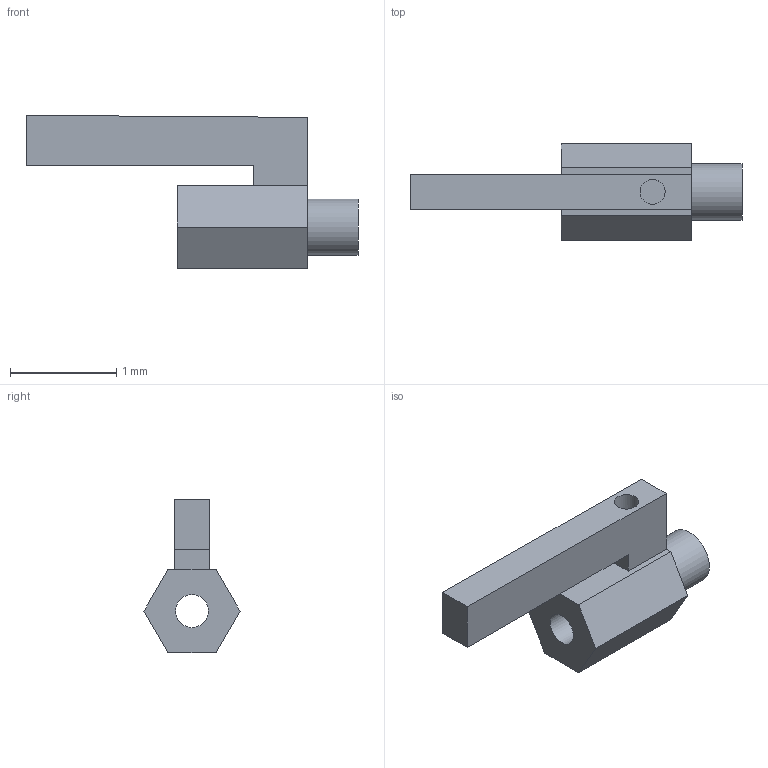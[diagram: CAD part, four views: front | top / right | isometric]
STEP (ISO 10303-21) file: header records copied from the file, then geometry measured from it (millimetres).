
FILE_DESCRIPTION(('Open CASCADE Model'),'2;1');
FILE_NAME('Open CASCADE Shape Model','2021-12-20T15:40:06',('Author'),( 'Open CASCADE'),'Open CASCADE STEP processor 7.3','Open CASCADE 7.3' ,'Unknown');
FILE_SCHEMA(('AUTOMOTIVE_DESIGN { 1 0 10303 214 1 1 1 1 }'));
Length unit declared in the file: millimetre
Products named in the file (1): Open CASCADE STEP translator 7.3 1
Bounding box: 3.12 x 0.9 x 1.44 mm (x, y, z)
Volume: 1 mm3; surface area: 11.3 mm2
Topology: 1 solids, 1 shells, 19 faces, 47 edges, 32 vertices
Faces by surface type: plane 16, cylinder 3
Full cylindrical faces by diameter (mm): 0.235 x1, 0.31 x1, 0.527 x1
Entity records: 1229 total; most frequent: CARTESIAN_POINT 251, DIRECTION 181, LINE 120, VECTOR 120, ORIENTED_EDGE 94, PCURVE 94, DEFINITIONAL_REPRESENTATION 94, EDGE_CURVE 47
